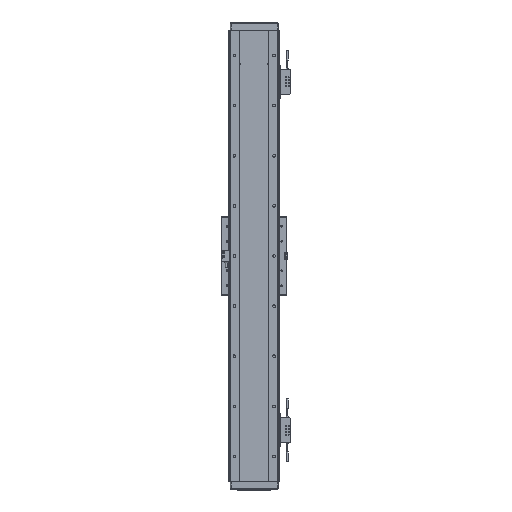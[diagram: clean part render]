
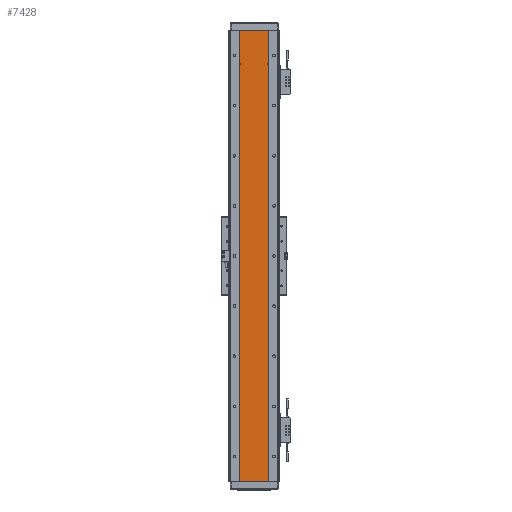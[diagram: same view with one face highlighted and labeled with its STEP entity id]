
A CAD part, front view. The second image highlights one B-rep face of the part: STEP entity #7428.
In plain terms, the highlighted planar face has unit normal (0, -1, 0).
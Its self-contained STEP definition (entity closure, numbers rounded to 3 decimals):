
#1147 = VERTEX_POINT ( 'NONE', #19729 ) ;
#2384 = ORIENTED_EDGE ( 'NONE', *, *, #95802, .T. ) ;
#3169 = VERTEX_POINT ( 'NONE', #43764 ) ;
#3362 = EDGE_CURVE ( 'NONE', #3169, #53237, #19825, .T. ) ;
#4327 = CARTESIAN_POINT ( 'NONE',  ( -34.5, 0., 540. ) ) ;
#7428 = ADVANCED_FACE ( 'NONE', ( #15647 ), #37016, .F. ) ;
#9147 = AXIS2_PLACEMENT_3D ( 'NONE', #24750, #54292, #40261 ) ;
#11397 = CARTESIAN_POINT ( 'NONE',  ( 33.5, 0., 461.65 ) ) ;
#12437 = EDGE_CURVE ( 'NONE', #87207, #83426, #27958, .T. ) ;
#12976 = LINE ( 'NONE', #28978, #57976 ) ;
#13285 = CARTESIAN_POINT ( 'NONE',  ( 34.5, 0., -540. ) ) ;
#13806 = EDGE_CURVE ( 'NONE', #53237, #49788, #18620, .T. ) ;
#15071 = DIRECTION ( 'NONE',  ( 0., 1., 0. ) ) ;
#15647 = FACE_OUTER_BOUND ( 'NONE', #26059, .T. ) ;
#15856 = VECTOR ( 'NONE', #94074, 1000. ) ;
#16300 = EDGE_CURVE ( 'NONE', #3169, #87207, #76330, .T. ) ;
#16607 = DIRECTION ( 'NONE',  ( 0., 1., 0. ) ) ;
#18450 = CIRCLE ( 'NONE', #38628, 1.65 ) ;
#18620 = CIRCLE ( 'NONE', #72781, 1.65 ) ;
#19282 = CIRCLE ( 'NONE', #91988, 1.65 ) ;
#19729 = CARTESIAN_POINT ( 'NONE',  ( -34.5, 0., 458.688 ) ) ;
#19825 = LINE ( 'NONE', #4327, #89384 ) ;
#22666 = CARTESIAN_POINT ( 'NONE',  ( 34.5, 0., 458.688 ) ) ;
#24750 = CARTESIAN_POINT ( 'NONE',  ( 33.5, 0., 460. ) ) ;
#25936 = CARTESIAN_POINT ( 'NONE',  ( -33.5, 0., 460. ) ) ;
#26059 = EDGE_LOOP ( 'NONE', ( #46698, #93077, #49442, #31044, #83615, #44459, #75473, #76436, #29543, #2384, #33998, #85949 ) ) ;
#26834 = CARTESIAN_POINT ( 'NONE',  ( 34.5, 0., 540. ) ) ;
#26852 = AXIS2_PLACEMENT_3D ( 'NONE', #38526, #69437, #83103 ) ;
#27958 = LINE ( 'NONE', #50231, #42455 ) ;
#28951 = VERTEX_POINT ( 'NONE', #11397 ) ;
#28978 = CARTESIAN_POINT ( 'NONE',  ( 34.5, 0., 540. ) ) ;
#29543 = ORIENTED_EDGE ( 'NONE', *, *, #85935, .T. ) ;
#30563 = VERTEX_POINT ( 'NONE', #39346 ) ;
#31044 = ORIENTED_EDGE ( 'NONE', *, *, #70316, .T. ) ;
#33144 = LINE ( 'NONE', #77223, #86027 ) ;
#33998 = ORIENTED_EDGE ( 'NONE', *, *, #12437, .F. ) ;
#34478 = VERTEX_POINT ( 'NONE', #13285 ) ;
#35081 = EDGE_CURVE ( 'NONE', #77982, #46589, #19282, .T. ) ;
#35135 = DIRECTION ( 'NONE',  ( 0., 1., 0. ) ) ;
#37016 = PLANE ( 'NONE',  #78900 ) ;
#37095 = CARTESIAN_POINT ( 'NONE',  ( -33.5, 0., 460. ) ) ;
#38410 = CARTESIAN_POINT ( 'NONE',  ( -34.5, 0., -540. ) ) ;
#38526 = CARTESIAN_POINT ( 'NONE',  ( 33.5, 0., 460. ) ) ;
#38628 = AXIS2_PLACEMENT_3D ( 'NONE', #37095, #81673, #95701 ) ;
#39346 = CARTESIAN_POINT ( 'NONE',  ( -33.5, 0., 458.35 ) ) ;
#40261 = DIRECTION ( 'NONE',  ( 0., 0., 1. ) ) ;
#42155 = DIRECTION ( 'NONE',  ( 0., 0., -1. ) ) ;
#42162 = CIRCLE ( 'NONE', #26852, 1.65 ) ;
#42246 = LINE ( 'NONE', #63985, #83207 ) ;
#42455 = VECTOR ( 'NONE', #43944, 1000. ) ;
#43207 = CIRCLE ( 'NONE', #9147, 1.65 ) ;
#43764 = CARTESIAN_POINT ( 'NONE',  ( -34.5, 0., 540. ) ) ;
#43944 = DIRECTION ( 'NONE',  ( 0., 0., -1. ) ) ;
#44459 = ORIENTED_EDGE ( 'NONE', *, *, #62993, .T. ) ;
#44560 = CARTESIAN_POINT ( 'NONE',  ( -33.5, 0., 460. ) ) ;
#44662 = DIRECTION ( 'NONE',  ( 0., 0., 1. ) ) ;
#46589 = VERTEX_POINT ( 'NONE', #77556 ) ;
#46698 = ORIENTED_EDGE ( 'NONE', *, *, #3362, .T. ) ;
#48471 = CARTESIAN_POINT ( 'NONE',  ( -33.5, 0., 461.65 ) ) ;
#49180 = DIRECTION ( 'NONE',  ( 0., 0., 1. ) ) ;
#49442 = ORIENTED_EDGE ( 'NONE', *, *, #89247, .T. ) ;
#49788 = VERTEX_POINT ( 'NONE', #48471 ) ;
#50231 = CARTESIAN_POINT ( 'NONE',  ( 34.5, 0., 540. ) ) ;
#51786 = CIRCLE ( 'NONE', #85805, 1.65 ) ;
#53237 = VERTEX_POINT ( 'NONE', #92243 ) ;
#54292 = DIRECTION ( 'NONE',  ( 0., 1., 0. ) ) ;
#55737 = CARTESIAN_POINT ( 'NONE',  ( 34.5, 0., 461.312 ) ) ;
#56743 = DIRECTION ( 'NONE',  ( 0., 0., -1. ) ) ;
#57976 = VECTOR ( 'NONE', #64323, 1000. ) ;
#58557 = DIRECTION ( 'NONE',  ( 0., 1., 0. ) ) ;
#60687 = DIRECTION ( 'NONE',  ( 0., 0., 1. ) ) ;
#62993 = EDGE_CURVE ( 'NONE', #77236, #34478, #33144, .T. ) ;
#63985 = CARTESIAN_POINT ( 'NONE',  ( -34.5, 0., 540. ) ) ;
#64323 = DIRECTION ( 'NONE',  ( 0., 0., -1. ) ) ;
#69437 = DIRECTION ( 'NONE',  ( 0., 1., 0. ) ) ;
#69918 = DIRECTION ( 'NONE',  ( 1., 0., 0. ) ) ;
#70316 = EDGE_CURVE ( 'NONE', #30563, #1147, #18450, .T. ) ;
#72781 = AXIS2_PLACEMENT_3D ( 'NONE', #25936, #35135, #49180 ) ;
#74080 = DIRECTION ( 'NONE',  ( 0., 0., 1. ) ) ;
#74280 = EDGE_CURVE ( 'NONE', #77982, #34478, #12976, .T. ) ;
#75473 = ORIENTED_EDGE ( 'NONE', *, *, #74280, .F. ) ;
#76330 = LINE ( 'NONE', #84569, #15856 ) ;
#76436 = ORIENTED_EDGE ( 'NONE', *, *, #35081, .T. ) ;
#77223 = CARTESIAN_POINT ( 'NONE',  ( -34.5, 0., -540. ) ) ;
#77236 = VERTEX_POINT ( 'NONE', #38410 ) ;
#77556 = CARTESIAN_POINT ( 'NONE',  ( 33.5, 0., 458.35 ) ) ;
#77982 = VERTEX_POINT ( 'NONE', #22666 ) ;
#78900 = AXIS2_PLACEMENT_3D ( 'NONE', #88827, #16607, #60687 ) ;
#81487 = CARTESIAN_POINT ( 'NONE',  ( 33.5, 0., 460. ) ) ;
#81673 = DIRECTION ( 'NONE',  ( 0., 1., 0. ) ) ;
#83103 = DIRECTION ( 'NONE',  ( 0., 0., 1. ) ) ;
#83207 = VECTOR ( 'NONE', #56743, 1000. ) ;
#83426 = VERTEX_POINT ( 'NONE', #55737 ) ;
#83615 = ORIENTED_EDGE ( 'NONE', *, *, #92191, .T. ) ;
#84569 = CARTESIAN_POINT ( 'NONE',  ( -34.5, 0., 540. ) ) ;
#85805 = AXIS2_PLACEMENT_3D ( 'NONE', #44560, #58557, #74080 ) ;
#85935 = EDGE_CURVE ( 'NONE', #46589, #28951, #42162, .T. ) ;
#85949 = ORIENTED_EDGE ( 'NONE', *, *, #16300, .F. ) ;
#86027 = VECTOR ( 'NONE', #69918, 1000. ) ;
#87207 = VERTEX_POINT ( 'NONE', #26834 ) ;
#88827 = CARTESIAN_POINT ( 'NONE',  ( -34.5, 0., 540. ) ) ;
#89247 = EDGE_CURVE ( 'NONE', #49788, #30563, #51786, .T. ) ;
#89384 = VECTOR ( 'NONE', #42155, 1000. ) ;
#91988 = AXIS2_PLACEMENT_3D ( 'NONE', #81487, #15071, #44662 ) ;
#92191 = EDGE_CURVE ( 'NONE', #1147, #77236, #42246, .T. ) ;
#92243 = CARTESIAN_POINT ( 'NONE',  ( -34.5, 0., 461.312 ) ) ;
#93077 = ORIENTED_EDGE ( 'NONE', *, *, #13806, .T. ) ;
#94074 = DIRECTION ( 'NONE',  ( 1., 0., 0. ) ) ;
#95701 = DIRECTION ( 'NONE',  ( 0., 0., 1. ) ) ;
#95802 = EDGE_CURVE ( 'NONE', #28951, #83426, #43207, .T. ) ;
